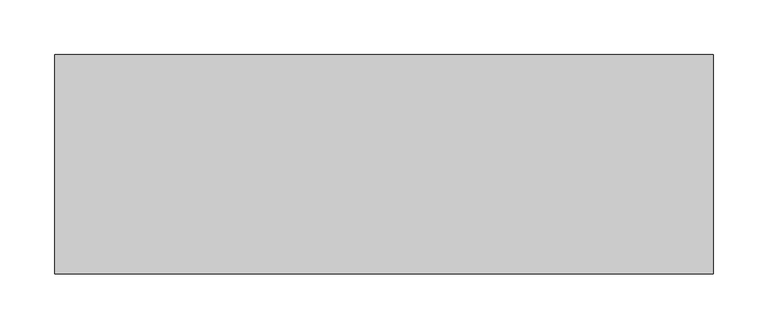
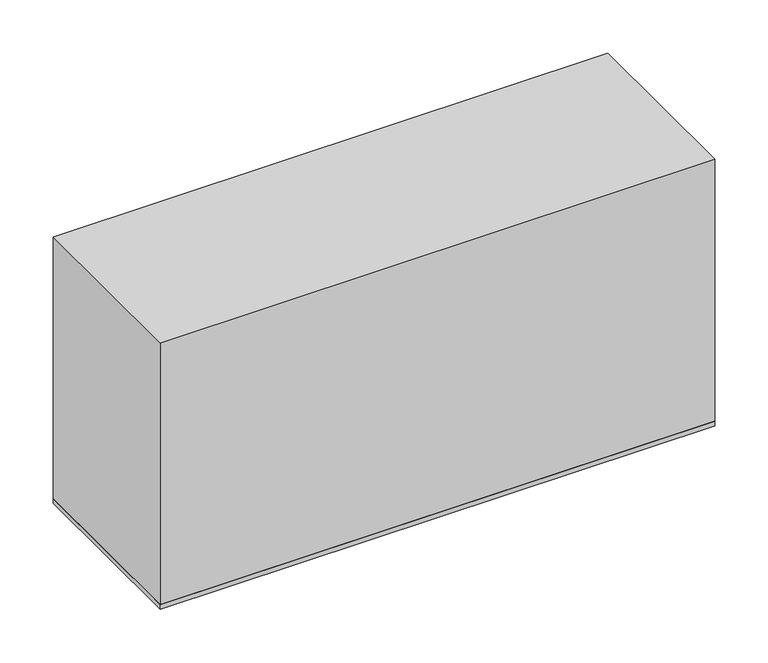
"""IFC4 building model written with IfcOpenShell, lengths in millimetres: proxy geometry, Módulo de Vedação de Concreto Celular - Celucon : MVCC 20x30x60cm (L x A x C)."""

from ifc_helpers import new_model, si_unit, frame, origin, origin_with_axes, place, context, project, spatial, polyline, outline, extrude, source, transform, mapped, element, save


def generic_models_ab5b7eca(model_context):
    return source(origin(), model_context, "Body", "SweptSolid", [
        extrude(outline(polyline([(300.0, -100.0), (-300.0, -100.0), (-300.0, 100.0), (300.0, 100.0), (300.0, -100.0)])), frame((0.0, 0.0, -5.0), z_axis=(0.0, 0.0, 1.0), x_axis=(1.0, 0.0, 0.0)), (0.0, 0.0, 1.0), 5.0),
        extrude(outline(polyline([(300.0, 100.0), (300.0, -100.0), (-300.0, -100.0), (-300.0, 100.0), (300.0, 100.0)])), origin_with_axes(), (0.0, 0.0, 1.0), 300.0),
    ])


if __name__ == "__main__":
    model = new_model("IFC4")
    model_context = context("Model", 3, world=origin())
    ifc_project = project(units=[si_unit("LENGTHUNIT", "METRE", prefix="MILLI")], contexts=[model_context])
    site = spatial("IfcSite", under=ifc_project)
    building = spatial("IfcBuilding", under=site)
    placement = place(None, origin())
    generic_models_shape = generic_models_ab5b7eca(model_context)
    element("IfcBuildingElementProxy", 1, Name="Módulo de Vedação de Concreto Celular - Celucon : MVCC 20x30x60cm (L x A x C)", ObjectType="Módulo de Vedação de Concreto Celular - Celucon : MVCC 20x30x60cm (L x A x C)", at=placement, inside=building, context=model_context, shape_type="MappedRepresentation", body=[
        mapped(generic_models_shape, transform((0.0, 0.0, 0.0), x_axis=(1.0, 0.0, 0.0), y_axis=(0.0, 1.0, 0.0), z_axis=(0.0, 0.0, 1.0))),
    ])
    save(model, "model.ifc")
